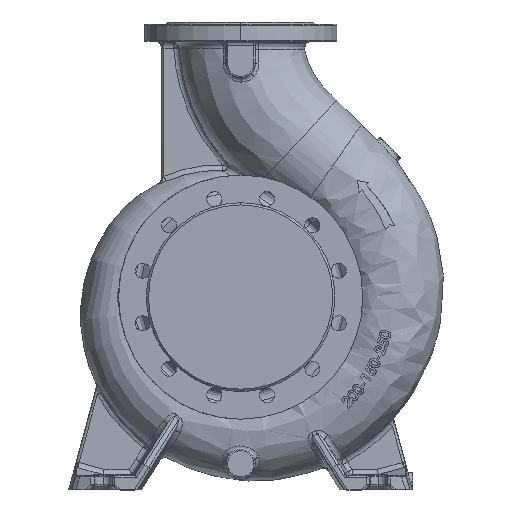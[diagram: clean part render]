
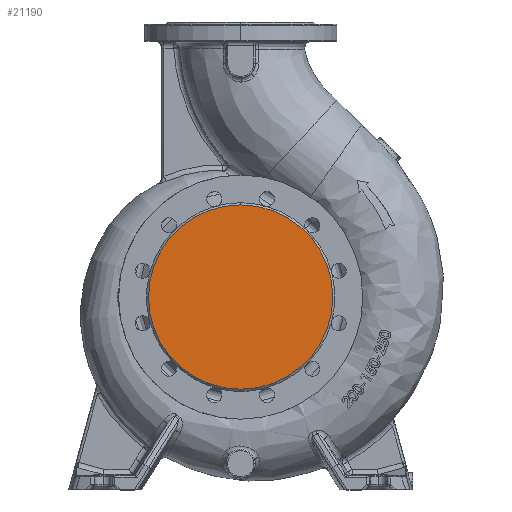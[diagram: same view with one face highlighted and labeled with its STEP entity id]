
A CAD part, top view. The second image highlights one B-rep face of the part: STEP entity #21190.
In plain terms, the highlighted planar face has unit normal (0, 0, 1).
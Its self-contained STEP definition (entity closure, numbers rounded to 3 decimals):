
#1371 = CIRCLE ( 'NONE', #42308, 134. ) ;
#11257 = CARTESIAN_POINT ( 'NONE',  ( 0., 134., 160. ) ) ;
#11415 = CARTESIAN_POINT ( 'NONE',  ( 0., -134., 160. ) ) ;
#13617 = VERTEX_POINT ( 'NONE', #11257 ) ;
#16510 = EDGE_LOOP ( 'NONE', ( #49194, #144461 ) ) ;
#21190 = ADVANCED_FACE ( 'NONE', ( #109282 ), #126571, .F. ) ;
#21460 = CARTESIAN_POINT ( 'NONE',  ( 0., 0., 160. ) ) ;
#34861 = VERTEX_POINT ( 'NONE', #11415 ) ;
#42308 = AXIS2_PLACEMENT_3D ( 'NONE', #21460, #141961, #82816 ) ;
#48159 = CARTESIAN_POINT ( 'NONE',  ( 0., 0., 160. ) ) ;
#49194 = ORIENTED_EDGE ( 'NONE', *, *, #53163, .F. ) ;
#53163 = EDGE_CURVE ( 'NONE', #13617, #34861, #1371, .T. ) ;
#66917 = DIRECTION ( 'NONE',  ( 0., 0., -1. ) ) ;
#75051 = AXIS2_PLACEMENT_3D ( 'NONE', #48159, #97264, #84268 ) ;
#75168 = AXIS2_PLACEMENT_3D ( 'NONE', #77427, #66917, #78960 ) ;
#77427 = CARTESIAN_POINT ( 'NONE',  ( 0., 0., 160. ) ) ;
#78960 = DIRECTION ( 'NONE',  ( 0., 1., 0. ) ) ;
#79432 = EDGE_CURVE ( 'NONE', #34861, #13617, #110629, .T. ) ;
#82816 = DIRECTION ( 'NONE',  ( 0., 1., 0. ) ) ;
#84268 = DIRECTION ( 'NONE',  ( 0., 1., 0. ) ) ;
#97264 = DIRECTION ( 'NONE',  ( 0., 0., -1. ) ) ;
#109282 = FACE_OUTER_BOUND ( 'NONE', #16510, .T. ) ;
#110629 = CIRCLE ( 'NONE', #75051, 134. ) ;
#126571 = PLANE ( 'NONE',  #75168 ) ;
#141961 = DIRECTION ( 'NONE',  ( 0., 0., -1. ) ) ;
#144461 = ORIENTED_EDGE ( 'NONE', *, *, #79432, .F. ) ;
